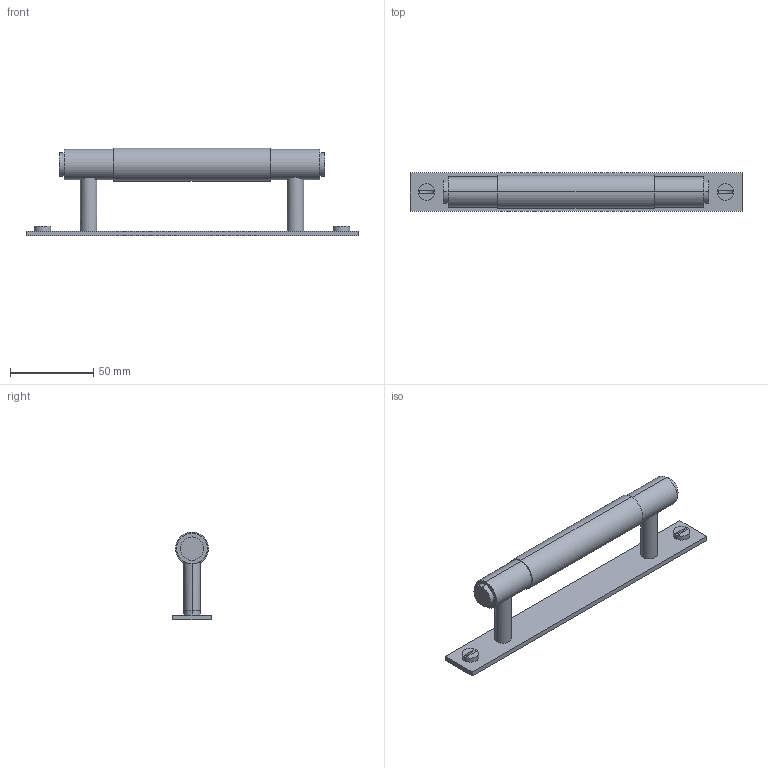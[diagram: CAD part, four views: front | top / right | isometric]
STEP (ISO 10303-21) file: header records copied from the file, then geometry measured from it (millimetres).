
FILE_DESCRIPTION (( 'STEP AP203' ), '1' );
FILE_NAME ('Pull Bar 200, 300, 400, 800 Configurations.STEP', '2016-10-12T13:57:19', ( '' ), ( '' ), 'SwSTEP 2.0', 'SolidWorks 2014', '' );
FILE_SCHEMA (( 'CONFIG_CONTROL_DESIGN' ));
Length unit declared in the file: millimetre
Products named in the file (1): Pull Bar 200, 300, 400, 800 Configurations
Bounding box: 200 x 23 x 53 mm (x, y, z)
Volume: 65540 mm3; surface area: 22689.6 mm2
Topology: 1 solids, 1 shells, 38 faces, 80 edges, 52 vertices
Faces by surface type: cylinder 20, plane 18
Entity records: 1249 total; most frequent: CARTESIAN_POINT 319, DIRECTION 190, ORIENTED_EDGE 160, EDGE_CURVE 80, AXIS2_PLACEMENT_3D 75, VERTEX_POINT 52, EDGE_LOOP 48, LINE 40
